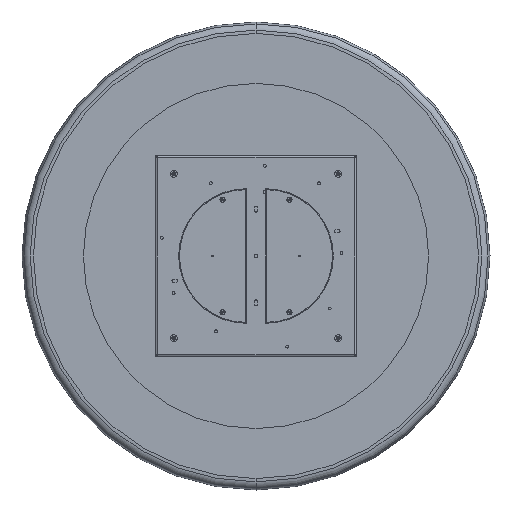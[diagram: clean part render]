
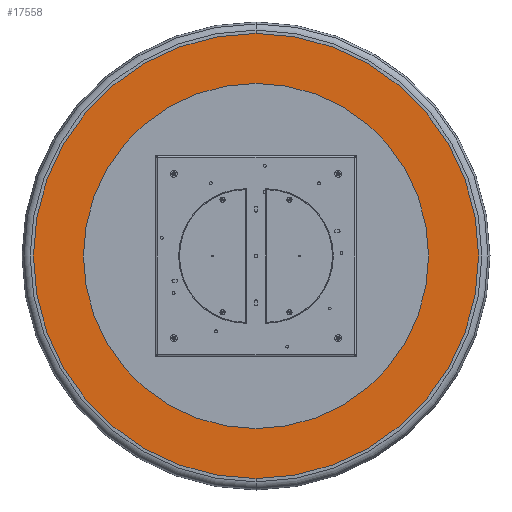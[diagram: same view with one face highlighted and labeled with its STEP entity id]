
A CAD part, front view. The second image highlights one B-rep face of the part: STEP entity #17558.
In plain terms, the highlighted planar face has unit normal (0, -1, 0).
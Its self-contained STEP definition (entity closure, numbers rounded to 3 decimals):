
#176 = DIRECTION ( 'NONE',  ( 0., 1., 0. ) ) ;
#735 = DIRECTION ( 'NONE',  ( 0., -1., 0. ) ) ;
#2322 = DIRECTION ( 'NONE',  ( 0., 0., -1. ) ) ;
#2891 = EDGE_LOOP ( 'NONE', ( #11620, #17186 ) ) ;
#3103 = VERTEX_POINT ( 'NONE', #4275 ) ;
#3549 = ORIENTED_EDGE ( 'NONE', *, *, #4352, .F. ) ;
#3884 = AXIS2_PLACEMENT_3D ( 'NONE', #6739, #12439, #18116 ) ;
#4275 = CARTESIAN_POINT ( 'NONE',  ( 0., -56., -590. ) ) ;
#4352 = EDGE_CURVE ( 'NONE', #8130, #15704, #12881, .T. ) ;
#4368 = CIRCLE ( 'NONE', #7031, 761. ) ;
#4529 = AXIS2_PLACEMENT_3D ( 'NONE', #17712, #13710, #2322 ) ;
#5421 = EDGE_CURVE ( 'NONE', #15000, #3103, #15744, .T. ) ;
#6658 = FACE_BOUND ( 'NONE', #2891, .T. ) ;
#6687 = DIRECTION ( 'NONE',  ( 0., 1., 0. ) ) ;
#6739 = CARTESIAN_POINT ( 'NONE',  ( 0., -56., 761. ) ) ;
#7031 = AXIS2_PLACEMENT_3D ( 'NONE', #12968, #176, #15862 ) ;
#7212 = CIRCLE ( 'NONE', #4529, 590. ) ;
#7907 = CARTESIAN_POINT ( 'NONE',  ( 0., -56., 0. ) ) ;
#7968 = CARTESIAN_POINT ( 'NONE',  ( 0., -56., 761. ) ) ;
#8130 = VERTEX_POINT ( 'NONE', #13190 ) ;
#8441 = ORIENTED_EDGE ( 'NONE', *, *, #11191, .F. ) ;
#8785 = EDGE_CURVE ( 'NONE', #3103, #15000, #7212, .T. ) ;
#9266 = FACE_OUTER_BOUND ( 'NONE', #14123, .T. ) ;
#9600 = AXIS2_PLACEMENT_3D ( 'NONE', #15081, #6687, #14996 ) ;
#9807 = CARTESIAN_POINT ( 'NONE',  ( 0., -56., 590. ) ) ;
#11191 = EDGE_CURVE ( 'NONE', #15704, #8130, #4368, .T. ) ;
#11282 = AXIS2_PLACEMENT_3D ( 'NONE', #7907, #735, #12484 ) ;
#11620 = ORIENTED_EDGE ( 'NONE', *, *, #8785, .F. ) ;
#12439 = DIRECTION ( 'NONE',  ( 0., -1., 0. ) ) ;
#12484 = DIRECTION ( 'NONE',  ( 0., 0., -1. ) ) ;
#12881 = CIRCLE ( 'NONE', #9600, 761. ) ;
#12968 = CARTESIAN_POINT ( 'NONE',  ( 0., -56., 0. ) ) ;
#13190 = CARTESIAN_POINT ( 'NONE',  ( 0., -56., -761. ) ) ;
#13710 = DIRECTION ( 'NONE',  ( 0., -1., 0. ) ) ;
#14123 = EDGE_LOOP ( 'NONE', ( #8441, #3549 ) ) ;
#14996 = DIRECTION ( 'NONE',  ( 0., 0., 1. ) ) ;
#15000 = VERTEX_POINT ( 'NONE', #9807 ) ;
#15081 = CARTESIAN_POINT ( 'NONE',  ( 0., -56., 0. ) ) ;
#15704 = VERTEX_POINT ( 'NONE', #7968 ) ;
#15744 = CIRCLE ( 'NONE', #11282, 590. ) ;
#15862 = DIRECTION ( 'NONE',  ( 0., 0., 1. ) ) ;
#16634 = PLANE ( 'NONE',  #3884 ) ;
#17186 = ORIENTED_EDGE ( 'NONE', *, *, #5421, .F. ) ;
#17558 = ADVANCED_FACE ( 'NONE', ( #6658, #9266 ), #16634, .T. ) ;
#17712 = CARTESIAN_POINT ( 'NONE',  ( 0., -56., 0. ) ) ;
#18116 = DIRECTION ( 'NONE',  ( 0., 0., -1. ) ) ;
